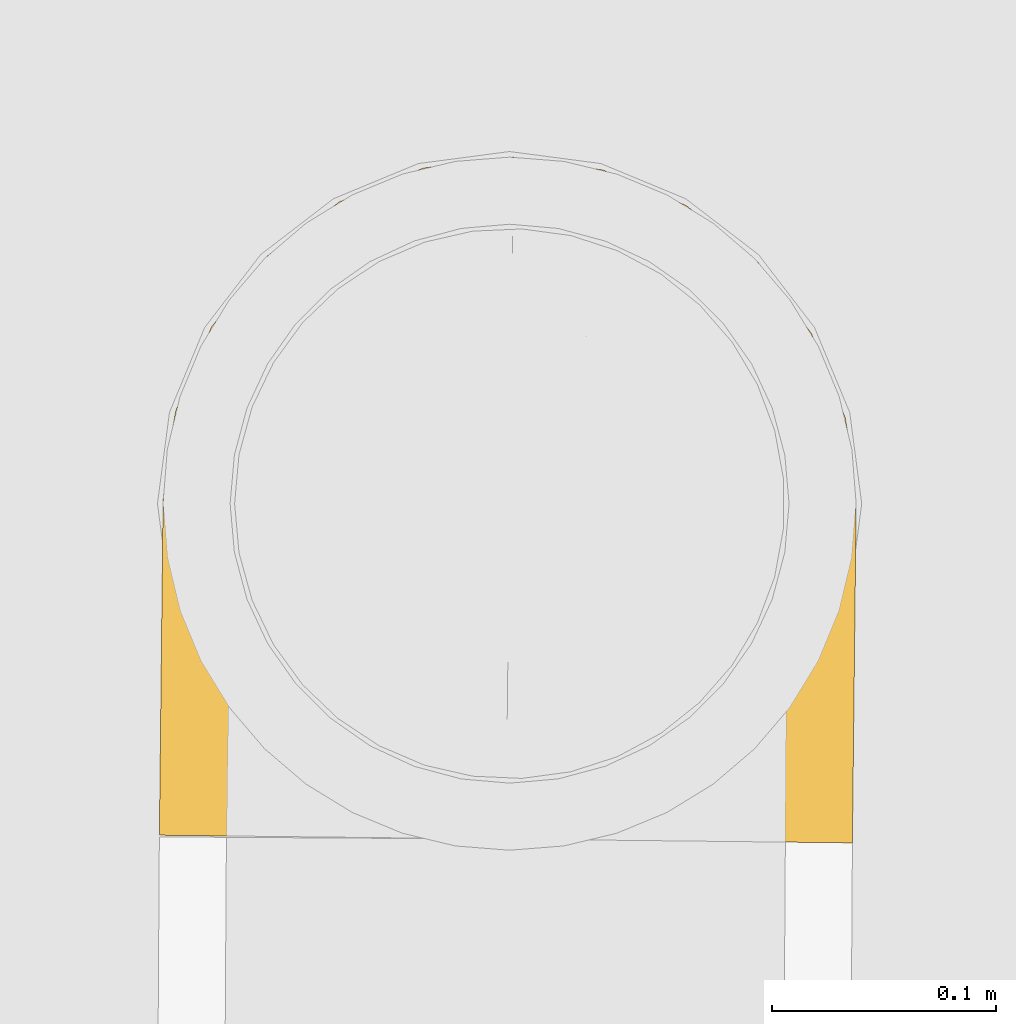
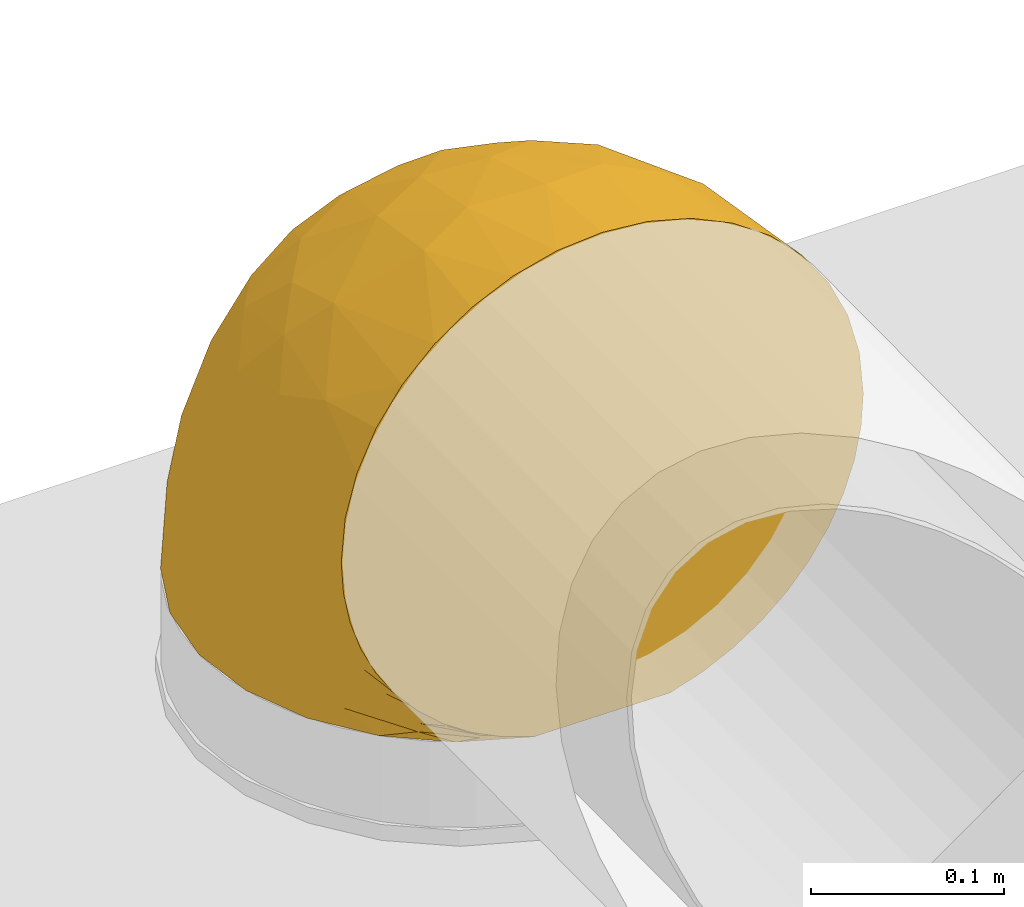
# One storey, part 4 of 36: 1 covering.
"""IFC2X3 building model written with IfcOpenShell, lengths in millimetres."""

from ifc_helpers import new_model, entity, si_unit, converted_unit, derived_unit, direction, frame, origin_with_axes, place, context, subcontext, project, spatial, open_shell, surface_model, source, transform, mapped, element, save


model = new_model("IFC2X3")

# Units and contexts
model_context = context("Model", 3, precision=0.01, world=frame((0.0, 4.29681676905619e-09, 0.0)), true_north=direction((4.01073788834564e-13, 1.0)))
plan_context = context("Plan", 3, precision=0.01, world=frame((0.0, 4.29681676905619e-09, 0.0)), true_north=direction((4.01073788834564e-13, 1.0)))
body_context = subcontext(model_context, "Body", "Model", "MODEL_VIEW")
ifc_project = project(units=[converted_unit("PLANEANGLEUNIT", "DEGREE", entity("IfcPositiveLengthMeasure", 0.0174532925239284), si_unit("PLANEANGLEUNIT", "RADIAN"), dimensions=[0, 0, 0, 0, 0, 0, 0]), si_unit("AREAUNIT", "SQUARE_METRE"), si_unit("LENGTHUNIT", "METRE", prefix="MILLI"), si_unit("MASSUNIT", "GRAM", prefix="KILO"), si_unit("POWERUNIT", "WATT"), si_unit("PRESSUREUNIT", "PASCAL"), si_unit("FORCEUNIT", "NEWTON", prefix="KILO"), si_unit("ELECTRICCURRENTUNIT", "AMPERE"), si_unit("THERMODYNAMICTEMPERATUREUNIT", "DEGREE_CELSIUS"), si_unit("TIMEUNIT", "SECOND"), si_unit("VOLUMEUNIT", "CUBIC_METRE"), derived_unit("LINEARVELOCITYUNIT", [(si_unit("LENGTHUNIT", "METRE"), 1), (si_unit("TIMEUNIT", "SECOND"), -1)]), derived_unit("VOLUMETRICFLOWRATEUNIT", [(si_unit("VOLUMEUNIT", "CUBIC_METRE"), 1), (si_unit("TIMEUNIT", "SECOND"), -1)]), derived_unit("THERMALTRANSMITTANCEUNIT", [(si_unit("POWERUNIT", "WATT"), 1), (si_unit("THERMODYNAMICTEMPERATUREUNIT", "KELVIN"), -1), (si_unit("AREAUNIT", "SQUARE_METRE"), -1)])], contexts=[model_context, plan_context])

# Site, building, storey
site_placement = place(None, frame((0.0, -4.29681676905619e-09, 0.0), z_axis=(0.0, 0.0, 1.0), x_axis=(1.0, 0.0, 0.0)))
site = spatial("IfcSite", under=ifc_project, at=site_placement, CompositionType="ELEMENT")
building_placement = place(site_placement, frame((0.0, 4.29681676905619e-09, 0.0), z_axis=(0.0, 0.0, 1.0), x_axis=(1.0, 0.0, 0.0)))
building = spatial("IfcBuilding", under=site, at=building_placement, Name="mc-building", CompositionType="ELEMENT")
storey_placement = place(building_placement, frame((0.0, 0.0, 204000.0), z_axis=(0.0, 0.0, 1.0), x_axis=(1.0, 0.0, 0.0)))
storey = spatial("IfcBuildingStorey", under=building, at=storey_placement, Name="Nivå D", CompositionType="ELEMENT", Elevation=204000.0)

# Covering
shared_shape = source(origin_with_axes(), body_context, "Body", "SurfaceModel", [
    surface_model("IfcShellBasedSurfaceModel", [(118.73529, 150.0, 99.63399), (134.23266, 150.0, 77.50222), (145.65278, 150.0, 53.01196), (-59.19195, 150.0, 143.25262), (-94.17833, 150.0, 123.10745), (-77.34385, 150.0, 134.32397), (-20.18853, 150.0, 153.67961), (0.0, 150.0, 155.0), (-40.0315, 150.0, 149.74138), (-109.40886, 150.0, 109.79391), (-122.77614, 150.0, 94.60984), (152.6459, 150.0, 26.91148), (155.0, 150.0, 0.0), (99.63399, 150.0, -118.73529), (77.50222, 150.0, -134.23266), (53.01196, 150.0, -145.65278), (26.91148, 150.0, -152.6459), (0.0, 150.0, -155.0), (-94.1823, 150.0, -123.1044), (-109.41224, 150.0, -109.79054), (-122.77862, 150.0, -94.6066), (-149.602, 150.0, -40.54927), (-134.05394, 150.0, -77.81094), (-143.0461, 150.0, -59.68929), (-20.18986, 150.0, -153.67945), (-40.03434, 150.0, -149.74061), (-150.0, 149.602, -40.54927), (-150.0, 134.05448, -77.80999), (-150.0, 109.41143, -109.79135), (-150.0, 109.41143, 109.79135), (-150.0, 40.03045, 149.74166), (-150.0, 77.34484, 134.3234), (-150.0, 149.602, 40.54927), (-149.71857, 149.71857, 40.54927), (-149.71857, 149.71857, -40.54927), (-149.602, 150.0, 40.54927), (-122.0938, 63.58605, -143.25267), (-150.0, 77.34484, -134.3234), (-136.20073, 95.91287, -123.10592), (-137.47708, 125.83029, -94.60648), (-147.1653, 140.01208, -67.31958), (-145.05359, 140.9526, -67.17187), (-149.94253, 149.6258, -40.54927), (-80.29961, 51.39737, -152.21515), (-103.44954, 37.61727, -152.38384), (-94.99005, 78.30964, -143.06822), (-55.95077, 115.20609, -146.80879), (-89.48176, 101.66012, -136.97501), (-88.82525, 121.39611, -131.24017), (-111.53741, 121.30822, -116.69619), (-144.09591, 123.4267, -94.60648), (-150.0, 40.03045, -149.74166), (-127.29873, 29.80052, -152.50922), (-150.0, 0.0, -155.0), (-75.0, 20.09619, -155.0), (-118.1798, 139.03454, -102.41686), (-118.92581, 90.55276, -130.95454), (-59.19573, 150.0, -143.25106), (-70.00847, 133.96789, -139.08278), (-77.34799, 150.0, -134.32159), (-61.94591, 82.43371, -150.01067), (-20.09619, 75.0, -155.0), (-43.93398, 43.93398, -155.0), (-149.68409, 149.80181, -40.54927), (-149.6496, 149.88506, -40.54927), (-132.32871, 142.03789, -83.45054), (-31.66904, 101.56483, -153.41062), (-136.84157, 146.59806, -73.60439), (-96.60055, 136.76109, -122.48696), (-32.51292, 126.45276, -152.03415), (-5.11113, 111.17714, -155.0), (-111.17714, 5.11113, -155.0), (-137.03744, 135.04293, -84.08924), (-122.88609, 116.1525, -112.49311), (-136.26737, 140.44841, -79.14233), (-131.29438, 108.39556, -114.58186), (-106.70969, 100.42277, -130.1473), (-149.85928, 149.66028, -40.54927), (-149.78892, 149.68943, -40.54927), (-81.04119, -16.4813, -152.02986), (-116.18378, -26.02376, -152.21653), (131.78325, 33.28155, 0.0), (141.04553, 78.41765, -40.11476), (149.13951, 90.49746, 0.0), (-67.24735, -127.11264, -68.1691), (-150.0, -149.7185, -40.11695), (-150.0, -134.23394, -77.5), (114.14712, 29.15563, -65.5067), (71.60067, -25.07998, -80.56368), (73.38458, 8.67006, -104.65045), (19.44892, -103.59823, 0.0), (0.95675, -110.7753, -33.58994), (49.11602, -77.65106, -28.03421), (-55.94132, -75.53005, -122.96977), (-107.24387, -90.58835, -122.96977), (-95.66121, -52.13969, -143.20133), (-0.20771, 35.06033, -150.06284), (-51.31739, 1.48198, -152.392), (-150.0, -77.5, -134.23394), (-150.0, -109.60155, -109.60155), (-54.64138, -41.60716, -141.15892), (152.64582, 150.0, -26.91195), (66.67312, 101.83568, -137.28255), (45.31502, 58.92276, -140.47743), (34.46684, 104.00581, -149.71919), (24.23902, -68.16086, -85.62716), (34.45369, -32.67366, -109.60181), (24.66713, 4.62395, -134.37766), (63.48014, 35.8833, -124.69436), (-79.13657, -113.61121, -94.35802), (-150.0, -155.0, 0.0), (-90.49746, -149.13951, 0.0), (37.641, -76.72836, -56.58032), (80.98557, -39.56495, -43.35542), (-33.28155, -131.78325, 0.0), (-62.91134, -137.09287, -39.00803), (-13.29658, -105.75414, -66.52793), (16.94312, 69.59641, -150.92769), (-24.95593, -12.96061, -144.75851), (118.73482, 150.0, -99.63454), (134.23249, 150.0, -77.50252), (130.97075, 88.8354, -71.44703), (94.07091, 61.55667, -109.60181), (-18.16534, -43.73064, -130.0498), (-9.76446, -69.1649, -109.00911), (65.66757, -65.66757, 0.0), (103.59823, -19.44892, 0.0), (145.65269, 150.0, -53.0122), (120.05296, 16.01657, -32.92188), (-150.0, -40.11695, -149.7185), (26.91195, 150.0, 152.64582), (-5.11113, 111.17714, 155.0), (34.46716, 104.0056, 149.7191), (-150.0, -149.7185, 40.11695), (-62.91133, -137.09289, 39.0079), (66.67351, 101.83536, 137.28232), (99.63454, 150.0, 118.73482), (77.50252, 150.0, 134.23249), (-4.6351, -113.35095, 35.80975), (-0.2077, 35.06033, 150.06284), (-20.09619, 75.0, 155.0), (-43.93398, 43.93398, 155.0), (36.16335, -79.7298, 52.90958), (-13.29652, -105.75426, 66.52764), (130.97108, 88.83573, 71.44654), (94.07163, 61.55714, 109.6013), (-92.39124, -133.99727, 66.97895), (80.98555, -39.56494, 43.3555), (141.04569, 78.41789, 40.11439), (-150.0, 0.0, 155.0), (-150.0, -40.11695, 149.7185), (-116.18307, -26.02416, 152.21643), (-42.25815, 9.58809, 152.63287), (-81.59831, -114.26067, 94.35802), (-106.87422, -81.84174, 129.07425), (-68.59042, -52.86926, 138.99578), (-109.18329, -55.29772, 143.20132), (-150.0, -77.5, 134.23394), (24.85479, 7.19063, 135.22219), (45.31512, 58.92233, 140.4773), (71.60146, -25.07914, 80.56352), (73.38472, 8.67039, 104.65052), (34.45406, -32.67402, 109.6013), (-62.50502, -78.15668, 122.96977), (-22.5047, -16.15511, 143.15239), (-77.22963, -25.6832, 149.70747), (114.14749, 29.15614, 65.50643), (63.48119, 35.88453, 124.69411), (120.0532, 16.01702, 32.92178), (-12.32249, -52.34142, 122.67654), (-150.0, -109.60155, 109.60155), (-19.74165, -84.78439, 99.91659), (26.84205, -68.68367, 82.46936), (53.0122, 150.0, 145.65269), (-75.0, 20.09619, 155.0), (-111.17714, 5.11113, 155.0), (16.94342, 69.59623, 150.92761), (-150.0, -134.23394, 77.5), (-126.9186, 42.25363, 149.80065), (-133.44376, 70.7605, 138.77026), (-80.71722, 115.52173, 136.9396), (-88.44442, 132.27863, 128.99063), (-102.56993, 126.66501, 120.78383), (-129.14296, 145.62289, 86.39583), (-134.05246, 150.0, 77.81348), (-78.97145, 57.43379, 151.37565), (-102.00586, 34.13191, 153.03779), (-149.6496, 149.88506, 40.54927), (-149.68409, 149.80181, 40.54927), (-138.49277, 144.51348, 72.02054), (-31.66714, 101.56927, 153.41064), (-62.73488, 83.03912, 149.74853), (-145.07011, 140.96969, 67.1242), (-149.85928, 149.66028, 40.54927), (-147.18207, 140.07114, 67.19209), (-79.93189, 99.563, 141.32072), (-55.94657, 115.20788, 146.80992), (-127.65846, 131.00429, 97.27617), (-138.2493, 135.6572, 82.12014), (-126.96761, 121.12603, 106.02507), (-150.0, 134.05448, 77.80999), (-143.89541, 123.47205, 94.60648), (-137.14121, 126.0073, 94.60648), (-133.70052, 96.61307, 123.10592), (-141.16662, 142.91589, 69.23674), (-118.67586, 137.68084, 102.42018), (-32.51047, 126.45429, 152.03457), (-149.94253, 149.6258, 40.54927), (-112.02924, 142.68426, 107.84446), (-56.66755, 133.19502, 144.85039), (-143.04559, 150.0, 59.69053), (-141.71917, 147.96851, 63.32625), (-149.6258, 149.94253, 40.54927), (-127.7393, 109.40375, 115.20024), (-112.88997, 97.15414, 129.33464), (-98.3972, 112.04888, 128.99063), (-89.95823, 85.78628, 142.02115), (-113.50407, 61.89104, 145.05307), (-103.07319, 76.35019, 141.76527), (-149.78892, 149.68943, 40.54927)], [open_shell([[[0, 1, 2]], [[3, 4, 5]], [[6, 7, 8]], [[9, 4, 10]], [[2, 11, 12]], [[13, 14, 15]], [[15, 16, 17]], [[18, 19, 20]], [[21, 22, 23]], [[22, 21, 20]], [[18, 20, 21]], [[17, 24, 25]], [[26, 27, 28]], [[29, 30, 31]], [[26, 32, 33]], [[34, 26, 33]], [[35, 21, 33]], [[34, 33, 21]], [[36, 37, 38]], [[39, 40, 41]], [[27, 26, 42]], [[43, 44, 45]], [[37, 28, 38]], [[46, 47, 48]], [[47, 49, 48]], [[50, 28, 27]], [[51, 52, 53]], [[50, 38, 28]], [[52, 36, 44]], [[44, 43, 54]], [[20, 19, 55]], [[51, 37, 36]], [[56, 36, 38]], [[57, 58, 59]], [[60, 61, 62]], [[63, 64, 65]], [[23, 64, 21]], [[66, 60, 46]], [[67, 23, 22]], [[46, 60, 47]], [[58, 48, 68]], [[18, 68, 19]], [[59, 58, 68]], [[66, 69, 70]], [[24, 70, 69]], [[62, 43, 60]], [[48, 58, 46]], [[25, 58, 57]], [[69, 66, 46]], [[58, 25, 69]], [[71, 44, 54]], [[24, 69, 25]], [[24, 17, 70]], [[50, 40, 39]], [[20, 67, 22]], [[69, 46, 58]], [[39, 41, 72]], [[48, 55, 68]], [[72, 73, 39]], [[20, 55, 67]], [[55, 48, 49]], [[65, 49, 74]], [[73, 56, 75]], [[49, 73, 72]], [[64, 67, 65]], [[70, 61, 66]], [[60, 66, 61]], [[60, 45, 47]], [[76, 47, 45]], [[42, 40, 27]], [[50, 39, 75]], [[40, 42, 77]], [[40, 77, 41]], [[27, 40, 50]], [[72, 78, 34]], [[72, 34, 74]], [[41, 78, 72]], [[49, 72, 74]], [[76, 49, 47]], [[56, 45, 36]], [[52, 44, 71]], [[45, 44, 36]], [[60, 43, 45]], [[62, 54, 43]], [[41, 77, 78]], [[75, 56, 38]], [[76, 56, 73]], [[53, 52, 71]], [[36, 52, 51]], [[19, 68, 55]], [[59, 68, 18]], [[74, 34, 63]], [[23, 67, 64]], [[65, 67, 55]], [[56, 76, 45]], [[49, 76, 73]], [[50, 75, 38]], [[73, 75, 39]], [[49, 65, 55]], [[63, 65, 74]], [[54, 79, 71]], [[80, 53, 71]], [[81, 82, 83]], [[84, 85, 86]], [[87, 88, 89]], [[90, 91, 92]], [[93, 94, 95]], [[62, 96, 97]], [[98, 94, 99]], [[79, 97, 100]], [[101, 83, 82]], [[102, 103, 104]], [[88, 105, 106]], [[107, 103, 108]], [[86, 109, 84]], [[110, 85, 111]], [[92, 112, 113]], [[86, 99, 109]], [[114, 111, 115]], [[112, 91, 116]], [[103, 96, 117]], [[113, 88, 87]], [[114, 115, 91]], [[107, 118, 96]], [[103, 117, 104]], [[115, 84, 116]], [[119, 120, 121]], [[111, 85, 115]], [[16, 15, 104]], [[122, 13, 119]], [[106, 123, 107]], [[15, 14, 102]], [[70, 16, 104]], [[15, 102, 104]], [[99, 94, 109]], [[16, 70, 17]], [[109, 93, 124]], [[123, 100, 118]], [[125, 113, 126]], [[82, 121, 127]], [[96, 62, 61]], [[128, 82, 81]], [[82, 127, 101]], [[98, 129, 95]], [[122, 119, 121]], [[102, 13, 122]], [[101, 12, 83]], [[128, 126, 113]], [[124, 106, 105]], [[87, 121, 82]], [[82, 128, 87]], [[79, 80, 71]], [[97, 96, 118]], [[70, 104, 117]], [[89, 108, 122]], [[107, 96, 103]], [[123, 106, 124]], [[97, 79, 54]], [[80, 95, 129]], [[105, 112, 116]], [[89, 88, 106]], [[112, 88, 113]], [[116, 109, 124]], [[124, 105, 116]], [[123, 124, 93]], [[100, 93, 95]], [[107, 123, 118]], [[93, 100, 123]], [[79, 100, 95]], [[88, 112, 105]], [[113, 125, 92]], [[114, 91, 90]], [[115, 116, 91]], [[90, 92, 125]], [[91, 112, 92]], [[126, 128, 81]], [[113, 87, 128]], [[95, 80, 79]], [[53, 80, 129]], [[13, 102, 14]], [[108, 102, 122]], [[122, 121, 87]], [[127, 121, 120]], [[95, 94, 98]], [[109, 94, 93]], [[108, 106, 107]], [[87, 89, 122]], [[108, 89, 106]], [[102, 108, 103]], [[62, 97, 54]], [[100, 97, 118]], [[96, 61, 117]], [[70, 117, 61]], [[84, 115, 85]], [[109, 116, 84]], [[130, 131, 132]], [[133, 110, 111]], [[114, 134, 111]], [[135, 136, 137]], [[114, 90, 138]], [[139, 140, 141]], [[142, 143, 138]], [[144, 0, 145]], [[146, 133, 134]], [[125, 147, 142]], [[83, 11, 148]], [[147, 125, 126]], [[149, 150, 151]], [[152, 139, 141]], [[143, 153, 146]], [[154, 155, 156]], [[156, 150, 157]], [[158, 159, 139]], [[160, 142, 147]], [[160, 161, 162]], [[154, 153, 163]], [[164, 152, 165]], [[160, 147, 166]], [[162, 167, 158]], [[168, 126, 81]], [[169, 158, 164]], [[148, 81, 83]], [[170, 153, 154]], [[169, 163, 171]], [[11, 2, 148]], [[172, 142, 160]], [[12, 11, 83]], [[135, 137, 173]], [[166, 148, 144]], [[174, 175, 165]], [[2, 1, 144]], [[155, 165, 156]], [[145, 0, 136]], [[159, 132, 176]], [[141, 174, 152]], [[176, 131, 140]], [[159, 176, 139]], [[132, 135, 173]], [[145, 166, 144]], [[173, 130, 132]], [[171, 163, 153]], [[7, 131, 130]], [[170, 177, 153]], [[148, 166, 168]], [[132, 159, 135]], [[156, 151, 150]], [[133, 111, 134]], [[146, 153, 177]], [[148, 168, 81]], [[171, 153, 143]], [[158, 139, 164]], [[162, 161, 167]], [[154, 156, 157]], [[151, 165, 175]], [[172, 171, 143]], [[169, 171, 162]], [[158, 169, 162]], [[155, 169, 164]], [[161, 166, 145]], [[162, 171, 172]], [[166, 147, 168]], [[126, 168, 147]], [[172, 143, 142]], [[162, 172, 160]], [[138, 143, 134]], [[125, 142, 90]], [[114, 138, 134]], [[90, 142, 138]], [[2, 144, 148]], [[144, 1, 0]], [[167, 135, 159]], [[136, 135, 145]], [[165, 151, 156]], [[149, 151, 175]], [[165, 152, 174]], [[139, 152, 164]], [[169, 155, 163]], [[164, 165, 155]], [[166, 161, 160]], [[161, 145, 167]], [[135, 167, 145]], [[158, 167, 159]], [[170, 154, 157]], [[155, 154, 163]], [[131, 176, 132]], [[140, 139, 176]], [[133, 146, 177]], [[143, 146, 134]], [[149, 175, 178]], [[30, 179, 31]], [[180, 181, 182]], [[183, 10, 184]], [[185, 174, 141]], [[174, 186, 175]], [[187, 188, 189]], [[190, 191, 140]], [[192, 193, 194]], [[195, 196, 180]], [[197, 198, 199]], [[200, 29, 201]], [[175, 186, 178]], [[192, 202, 198]], [[178, 179, 30]], [[203, 29, 31]], [[197, 204, 198]], [[205, 183, 189]], [[206, 190, 131]], [[200, 207, 32]], [[131, 7, 6]], [[182, 181, 205]], [[208, 10, 183]], [[209, 8, 3]], [[193, 207, 194]], [[184, 210, 211]], [[4, 181, 5]], [[8, 209, 206]], [[191, 141, 140]], [[196, 206, 209]], [[210, 35, 212]], [[208, 4, 9]], [[211, 189, 183]], [[208, 9, 10]], [[209, 5, 181]], [[199, 213, 214]], [[185, 141, 191]], [[215, 182, 197]], [[211, 210, 212]], [[208, 183, 205]], [[190, 206, 196]], [[8, 206, 6]], [[131, 6, 206]], [[197, 205, 189]], [[216, 185, 191]], [[203, 217, 218]], [[203, 213, 201]], [[216, 215, 214]], [[186, 185, 217]], [[218, 185, 216]], [[215, 197, 199]], [[203, 201, 29]], [[194, 200, 201]], [[191, 190, 196]], [[140, 131, 190]], [[202, 192, 194]], [[200, 194, 207]], [[202, 194, 201]], [[202, 199, 198]], [[198, 219, 192]], [[204, 197, 189]], [[205, 181, 208]], [[189, 188, 204]], [[33, 198, 204]], [[213, 199, 202]], [[33, 204, 188]], [[215, 199, 214]], [[201, 213, 202]], [[203, 214, 213]], [[219, 198, 33]], [[219, 193, 192]], [[4, 208, 181]], [[5, 209, 3]], [[181, 196, 209]], [[216, 191, 195]], [[218, 216, 214]], [[185, 186, 174]], [[178, 186, 217]], [[178, 217, 179]], [[178, 30, 149]], [[217, 203, 179]], [[203, 31, 179]], [[203, 218, 214]], [[185, 218, 217]], [[197, 182, 205]], [[180, 182, 215]], [[195, 180, 215]], [[181, 180, 196]], [[216, 195, 215]], [[196, 195, 191]], [[211, 212, 187]], [[189, 211, 187]], [[211, 183, 184]], [[200, 30, 29]], [[150, 170, 157]], [[173, 137, 130]], [[7, 130, 137]], [[136, 0, 137]], [[120, 101, 127]], [[13, 120, 119]], [[18, 57, 59]], [[18, 21, 57]], [[101, 2, 12]], [[32, 37, 149]], [[170, 133, 177]], [[85, 110, 133]], [[4, 7, 21]], [[137, 21, 7]], [[2, 137, 0]], [[137, 2, 101]], [[8, 7, 4]], [[4, 3, 8]], [[4, 184, 10]], [[210, 184, 4]], [[210, 4, 21]], [[210, 21, 35]], [[21, 137, 101]], [[120, 21, 101]], [[15, 21, 120]], [[15, 120, 13]], [[15, 17, 25]], [[25, 57, 21]], [[15, 25, 21]], [[32, 28, 37]], [[28, 32, 26]], [[85, 149, 37]], [[149, 200, 32]], [[30, 200, 149]], [[37, 51, 53]], [[86, 53, 129]], [[99, 129, 98]], [[86, 85, 53]], [[86, 129, 99]], [[170, 149, 85]], [[149, 170, 150]], [[85, 133, 170]], [[85, 37, 53]]])]),
])
covering_placement = place(storey_placement, frame((515577.5, 420465.19145, 2614.0), z_axis=(0.999938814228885, -0.0110619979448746, 0.0), x_axis=(0.0, 0.0, 1.0)))
element("IfcCovering", 1, at=covering_placement, inside=storey, Name="EI60-30", PredefinedType="INSULATION", context=body_context, shape_type="MappedRepresentation", body=[
    mapped(shared_shape, transform((0.0, 0.0, 0.0), scale=1.0)),
])

save(model, "model.ifc")
